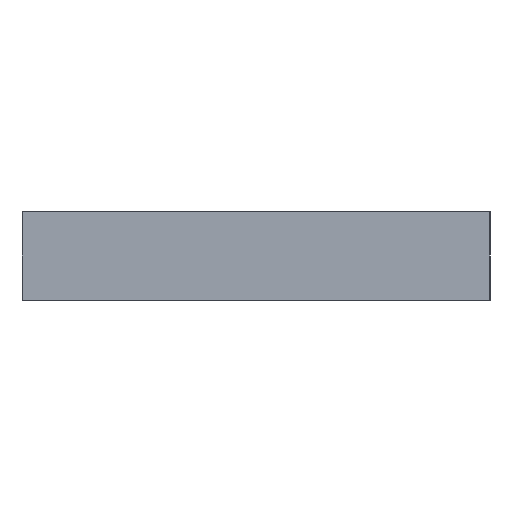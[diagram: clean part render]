
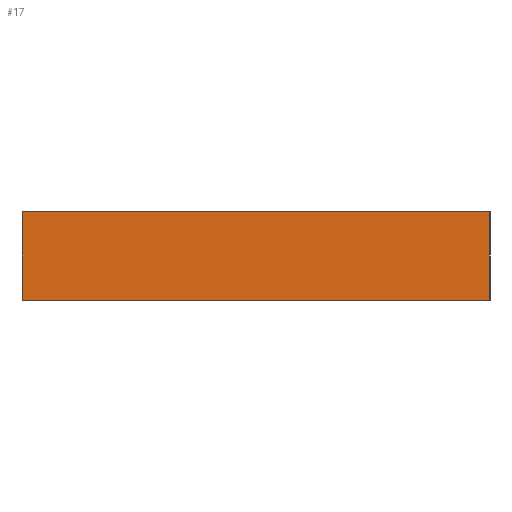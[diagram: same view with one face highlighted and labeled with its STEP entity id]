
A CAD part, left-side view. The second image highlights one B-rep face of the part: STEP entity #17.
In plain terms, the highlighted planar face has unit normal (-1, 0, 0).
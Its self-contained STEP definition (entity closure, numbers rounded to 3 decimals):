
#17 = ADVANCED_FACE('',(#18),#32,.F.);
#18 = FACE_BOUND('',#19,.F.);
#19 = EDGE_LOOP('',(#20,#55,#83,#111));
#20 = ORIENTED_EDGE('',*,*,#21,.F.);
#21 = EDGE_CURVE('',#22,#24,#26,.T.);
#22 = VERTEX_POINT('',#23);
#23 = CARTESIAN_POINT('',(-47.5,-26.5,-5.));
#24 = VERTEX_POINT('',#25);
#25 = CARTESIAN_POINT('',(-47.5,-26.5,5.));
#26 = SURFACE_CURVE('',#27,(#31,#43),.PCURVE_S1.);
#27 = LINE('',#28,#29);
#28 = CARTESIAN_POINT('',(-47.5,-26.5,-5.));
#29 = VECTOR('',#30,1.);
#30 = DIRECTION('',(0.,0.,1.));
#31 = PCURVE('',#32,#37);
#32 = PLANE('',#33);
#33 = AXIS2_PLACEMENT_3D('',#34,#35,#36);
#34 = CARTESIAN_POINT('',(-47.5,-26.5,-5.));
#35 = DIRECTION('',(1.,0.,0.));
#36 = DIRECTION('',(0.,0.,1.));
#37 = DEFINITIONAL_REPRESENTATION('',(#38),#42);
#38 = LINE('',#39,#40);
#39 = CARTESIAN_POINT('',(0.,0.));
#40 = VECTOR('',#41,1.);
#41 = DIRECTION('',(1.,0.));
#42 = ( GEOMETRIC_REPRESENTATION_CONTEXT(2) 
PARAMETRIC_REPRESENTATION_CONTEXT() REPRESENTATION_CONTEXT('2D SPACE',''
  ) );
#43 = PCURVE('',#44,#49);
#44 = PLANE('',#45);
#45 = AXIS2_PLACEMENT_3D('',#46,#47,#48);
#46 = CARTESIAN_POINT('',(-47.5,-26.5,-5.));
#47 = DIRECTION('',(0.,1.,0.));
#48 = DIRECTION('',(0.,0.,1.));
#49 = DEFINITIONAL_REPRESENTATION('',(#50),#54);
#50 = LINE('',#51,#52);
#51 = CARTESIAN_POINT('',(0.,0.));
#52 = VECTOR('',#53,1.);
#53 = DIRECTION('',(1.,0.));
#54 = ( GEOMETRIC_REPRESENTATION_CONTEXT(2) 
PARAMETRIC_REPRESENTATION_CONTEXT() REPRESENTATION_CONTEXT('2D SPACE',''
  ) );
#55 = ORIENTED_EDGE('',*,*,#56,.T.);
#56 = EDGE_CURVE('',#22,#57,#59,.T.);
#57 = VERTEX_POINT('',#58);
#58 = CARTESIAN_POINT('',(-47.5,26.5,-5.));
#59 = SURFACE_CURVE('',#60,(#64,#71),.PCURVE_S1.);
#60 = LINE('',#61,#62);
#61 = CARTESIAN_POINT('',(-47.5,-26.5,-5.));
#62 = VECTOR('',#63,1.);
#63 = DIRECTION('',(0.,1.,0.));
#64 = PCURVE('',#32,#65);
#65 = DEFINITIONAL_REPRESENTATION('',(#66),#70);
#66 = LINE('',#67,#68);
#67 = CARTESIAN_POINT('',(0.,0.));
#68 = VECTOR('',#69,1.);
#69 = DIRECTION('',(0.,-1.));
#70 = ( GEOMETRIC_REPRESENTATION_CONTEXT(2) 
PARAMETRIC_REPRESENTATION_CONTEXT() REPRESENTATION_CONTEXT('2D SPACE',''
  ) );
#71 = PCURVE('',#72,#77);
#72 = PLANE('',#73);
#73 = AXIS2_PLACEMENT_3D('',#74,#75,#76);
#74 = CARTESIAN_POINT('',(-47.5,-26.5,-5.));
#75 = DIRECTION('',(0.,0.,1.));
#76 = DIRECTION('',(1.,0.,0.));
#77 = DEFINITIONAL_REPRESENTATION('',(#78),#82);
#78 = LINE('',#79,#80);
#79 = CARTESIAN_POINT('',(0.,0.));
#80 = VECTOR('',#81,1.);
#81 = DIRECTION('',(0.,1.));
#82 = ( GEOMETRIC_REPRESENTATION_CONTEXT(2) 
PARAMETRIC_REPRESENTATION_CONTEXT() REPRESENTATION_CONTEXT('2D SPACE',''
  ) );
#83 = ORIENTED_EDGE('',*,*,#84,.T.);
#84 = EDGE_CURVE('',#57,#85,#87,.T.);
#85 = VERTEX_POINT('',#86);
#86 = CARTESIAN_POINT('',(-47.5,26.5,5.));
#87 = SURFACE_CURVE('',#88,(#92,#99),.PCURVE_S1.);
#88 = LINE('',#89,#90);
#89 = CARTESIAN_POINT('',(-47.5,26.5,-5.));
#90 = VECTOR('',#91,1.);
#91 = DIRECTION('',(0.,0.,1.));
#92 = PCURVE('',#32,#93);
#93 = DEFINITIONAL_REPRESENTATION('',(#94),#98);
#94 = LINE('',#95,#96);
#95 = CARTESIAN_POINT('',(0.,-53.));
#96 = VECTOR('',#97,1.);
#97 = DIRECTION('',(1.,0.));
#98 = ( GEOMETRIC_REPRESENTATION_CONTEXT(2) 
PARAMETRIC_REPRESENTATION_CONTEXT() REPRESENTATION_CONTEXT('2D SPACE',''
  ) );
#99 = PCURVE('',#100,#105);
#100 = PLANE('',#101);
#101 = AXIS2_PLACEMENT_3D('',#102,#103,#104);
#102 = CARTESIAN_POINT('',(-47.5,26.5,-5.));
#103 = DIRECTION('',(0.,1.,0.));
#104 = DIRECTION('',(0.,0.,1.));
#105 = DEFINITIONAL_REPRESENTATION('',(#106),#110);
#106 = LINE('',#107,#108);
#107 = CARTESIAN_POINT('',(0.,0.));
#108 = VECTOR('',#109,1.);
#109 = DIRECTION('',(1.,0.));
#110 = ( GEOMETRIC_REPRESENTATION_CONTEXT(2) 
PARAMETRIC_REPRESENTATION_CONTEXT() REPRESENTATION_CONTEXT('2D SPACE',''
  ) );
#111 = ORIENTED_EDGE('',*,*,#112,.F.);
#112 = EDGE_CURVE('',#24,#85,#113,.T.);
#113 = SURFACE_CURVE('',#114,(#118,#125),.PCURVE_S1.);
#114 = LINE('',#115,#116);
#115 = CARTESIAN_POINT('',(-47.5,-26.5,5.));
#116 = VECTOR('',#117,1.);
#117 = DIRECTION('',(0.,1.,0.));
#118 = PCURVE('',#32,#119);
#119 = DEFINITIONAL_REPRESENTATION('',(#120),#124);
#120 = LINE('',#121,#122);
#121 = CARTESIAN_POINT('',(10.,0.));
#122 = VECTOR('',#123,1.);
#123 = DIRECTION('',(0.,-1.));
#124 = ( GEOMETRIC_REPRESENTATION_CONTEXT(2) 
PARAMETRIC_REPRESENTATION_CONTEXT() REPRESENTATION_CONTEXT('2D SPACE',''
  ) );
#125 = PCURVE('',#126,#131);
#126 = PLANE('',#127);
#127 = AXIS2_PLACEMENT_3D('',#128,#129,#130);
#128 = CARTESIAN_POINT('',(-47.5,-26.5,5.));
#129 = DIRECTION('',(0.,0.,1.));
#130 = DIRECTION('',(1.,0.,0.));
#131 = DEFINITIONAL_REPRESENTATION('',(#132),#136);
#132 = LINE('',#133,#134);
#133 = CARTESIAN_POINT('',(0.,0.));
#134 = VECTOR('',#135,1.);
#135 = DIRECTION('',(0.,1.));
#136 = ( GEOMETRIC_REPRESENTATION_CONTEXT(2) 
PARAMETRIC_REPRESENTATION_CONTEXT() REPRESENTATION_CONTEXT('2D SPACE',''
  ) );
